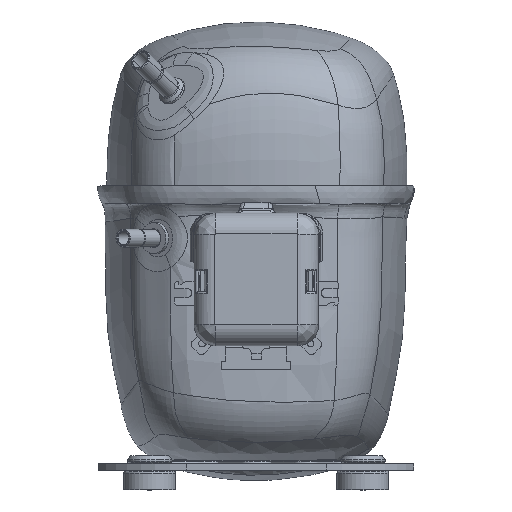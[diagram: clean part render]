
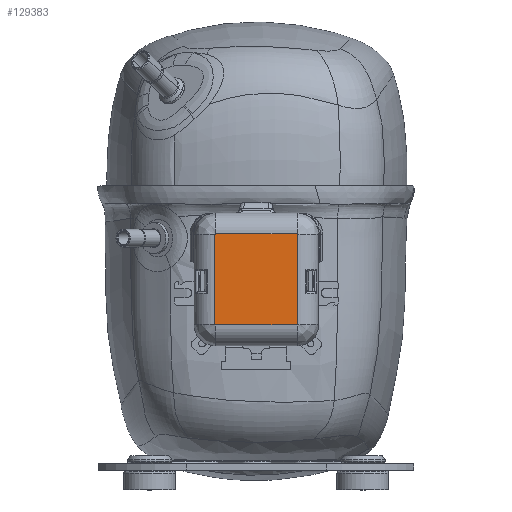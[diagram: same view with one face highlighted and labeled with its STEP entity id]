
A CAD part, top view. The second image highlights one B-rep face of the part: STEP entity #129383.
In plain terms, the highlighted planar face has unit normal (0, 0, 1) as drawn and (0, -1, 0) by its records, which use the part's own axes.
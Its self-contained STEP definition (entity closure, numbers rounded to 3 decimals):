
#124180=CARTESIAN_POINT('',(19.5,-2.2,21.45));
#124181=DIRECTION('',(0.,-1.,0.));
#124182=DIRECTION('',(1.,0.,0.));
#124183=AXIS2_PLACEMENT_3D('',#124180,#124181,#124182);
#124185=DIRECTION('',(0.,0.,1.));
#124186=VECTOR('',#124185,42.9);
#124187=CARTESIAN_POINT('',(19.7,-2.2,-21.45));
#124188=LINE('',#124187,#124186);
#124189=CARTESIAN_POINT('',(19.5,-2.2,-21.45));
#124190=DIRECTION('',(0.,-1.,0.));
#124191=DIRECTION('',(0.,0.,-1.));
#124192=AXIS2_PLACEMENT_3D('',#124189,#124190,#124191);
#124194=DIRECTION('',(1.,0.,0.));
#124195=VECTOR('',#124194,39.);
#124196=CARTESIAN_POINT('',(-19.5,-2.2,-21.65));
#124197=LINE('',#124196,#124195);
#124198=CARTESIAN_POINT('',(-19.5,-2.2,-21.45));
#124199=DIRECTION('',(0.,-1.,0.));
#124200=DIRECTION('',(-1.,0.,0.));
#124201=AXIS2_PLACEMENT_3D('',#124198,#124199,#124200);
#124203=DIRECTION('',(0.,0.,-1.));
#124204=VECTOR('',#124203,42.9);
#124205=CARTESIAN_POINT('',(-19.7,-2.2,21.45));
#124206=LINE('',#124205,#124204);
#124207=CARTESIAN_POINT('',(-19.5,-2.2,21.45));
#124208=DIRECTION('',(0.,-1.,0.));
#124209=DIRECTION('',(0.,0.,1.));
#124210=AXIS2_PLACEMENT_3D('',#124207,#124208,#124209);
#124212=DIRECTION('',(-1.,0.,0.));
#124213=VECTOR('',#124212,39.);
#124214=CARTESIAN_POINT('',(19.5,-2.2,21.65));
#124215=LINE('',#124214,#124213);
#128514=CARTESIAN_POINT('',(19.7,-2.2,21.45));
#128515=CARTESIAN_POINT('',(19.5,-2.2,21.65));
#128516=VERTEX_POINT('',#128514);
#128517=VERTEX_POINT('',#128515);
#128522=CARTESIAN_POINT('',(-19.5,-2.2,21.65));
#128523=VERTEX_POINT('',#128522);
#128526=CARTESIAN_POINT('',(-19.7,-2.2,21.45));
#128527=VERTEX_POINT('',#128526);
#128530=CARTESIAN_POINT('',(-19.7,-2.2,-21.45));
#128531=VERTEX_POINT('',#128530);
#128534=CARTESIAN_POINT('',(-19.5,-2.2,-21.65));
#128535=CARTESIAN_POINT('',(19.5,-2.2,-21.65));
#128536=VERTEX_POINT('',#128534);
#128537=VERTEX_POINT('',#128535);
#128542=CARTESIAN_POINT('',(19.7,-2.2,-21.45));
#128543=VERTEX_POINT('',#128542);
#129360=CARTESIAN_POINT('',(0.,-2.2,0.));
#129361=DIRECTION('',(0.,1.,0.));
#129362=DIRECTION('',(1.,0.,0.));
#129363=AXIS2_PLACEMENT_3D('',#129360,#129361,#129362);
#129364=PLANE('',#129363);
#129366=ORIENTED_EDGE('',*,*,#129365,.F.);
#129368=ORIENTED_EDGE('',*,*,#129367,.F.);
#129370=ORIENTED_EDGE('',*,*,#129369,.F.);
#129372=ORIENTED_EDGE('',*,*,#129371,.F.);
#129374=ORIENTED_EDGE('',*,*,#129373,.F.);
#129376=ORIENTED_EDGE('',*,*,#129375,.F.);
#129378=ORIENTED_EDGE('',*,*,#129377,.F.);
#129380=ORIENTED_EDGE('',*,*,#129379,.F.);
#129381=EDGE_LOOP('',(#129366,#129368,#129370,#129372,#129374,#129376,#129378,
#129380));
#129382=FACE_OUTER_BOUND('',#129381,.F.);
#129383=ADVANCED_FACE('',(#129382),#129364,.F.);
#124184=CIRCLE('',#124183,0.2);
#124193=CIRCLE('',#124192,0.2);
#124202=CIRCLE('',#124201,0.2);
#124211=CIRCLE('',#124210,0.2);
#129365=EDGE_CURVE('',#128516,#128517,#124184,.T.);
#129367=EDGE_CURVE('',#128543,#128516,#124188,.T.);
#129369=EDGE_CURVE('',#128537,#128543,#124193,.T.);
#129371=EDGE_CURVE('',#128536,#128537,#124197,.T.);
#129373=EDGE_CURVE('',#128531,#128536,#124202,.T.);
#129375=EDGE_CURVE('',#128527,#128531,#124206,.T.);
#129377=EDGE_CURVE('',#128523,#128527,#124211,.T.);
#129379=EDGE_CURVE('',#128517,#128523,#124215,.T.);
